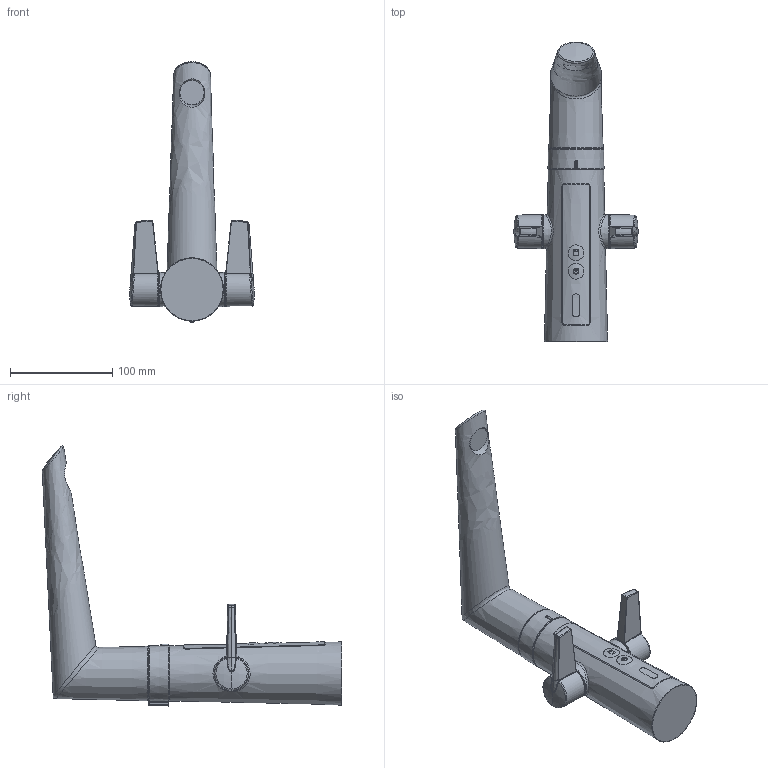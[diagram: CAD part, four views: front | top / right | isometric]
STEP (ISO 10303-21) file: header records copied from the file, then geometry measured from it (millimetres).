
FILE_DESCRIPTION (( 'STEP AP203' ), '1' );
FILE_NAME ('2725F.STEP', '2017-03-09T05:48:21', ( '' ), ( '' ), 'SwSTEP 2.0', 'SolidWorks 2016', '' );
FILE_SCHEMA (( 'CONFIG_CONTROL_DESIGN' ));
Length unit declared in the file: millimetre
Products named in the file (1): 2725F
Bounding box: 121.98 x 293.44 x 255.32 mm (x, y, z)
Volume: 994570.9 mm3; surface area: 90969.9 mm2
Topology: 1 solids, 1 shells, 236 faces, 552 edges, 337 vertices
Faces by surface type: bspline 167, torus 20, cone 19, plane 18, cylinder 11, sphere 1
Full cylindrical faces by diameter (mm): 23.8 x1, 32.535 x4, 33.5 x2
Entity records: 31004 total; most frequent: CARTESIAN_POINT 27160, ORIENTED_EDGE 998, EDGE_CURVE 499, B_SPLINE_CURVE_WITH_KNOTS 357, DIRECTION 354, VERTEX_POINT 320, EDGE_LOOP 291, FACE_OUTER_BOUND 259
